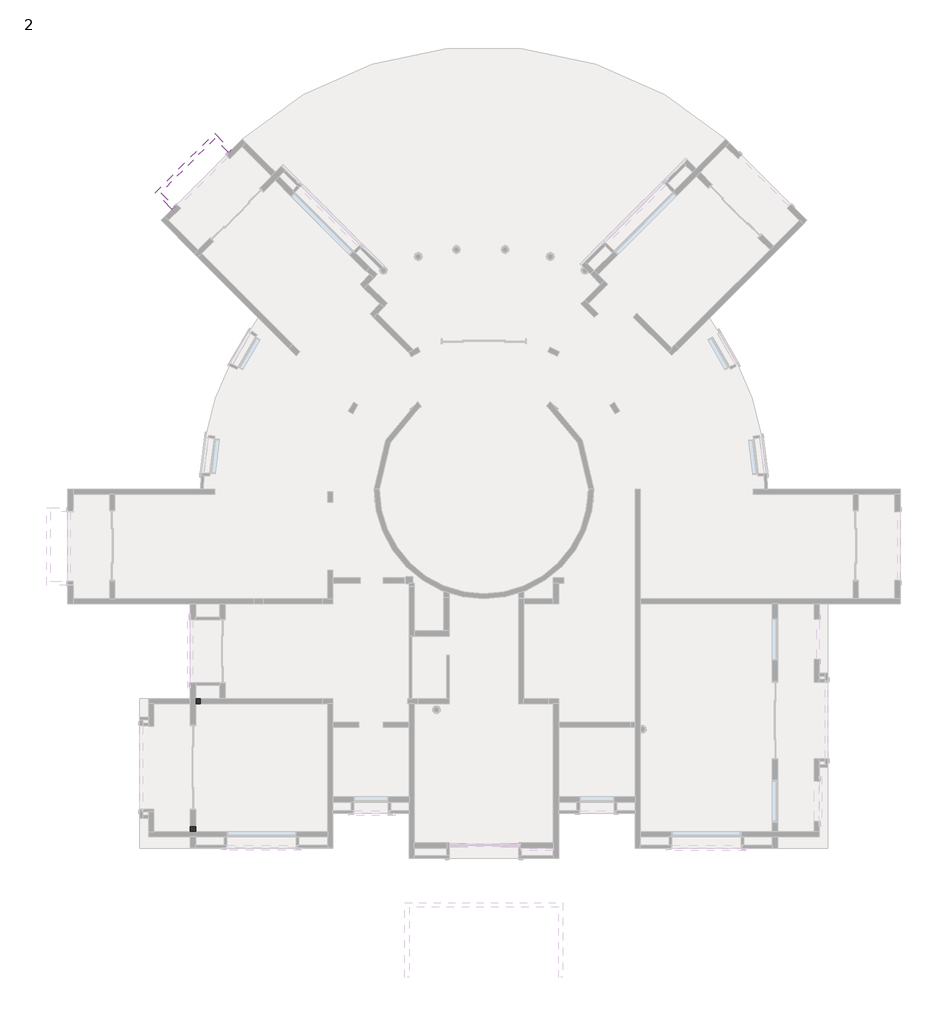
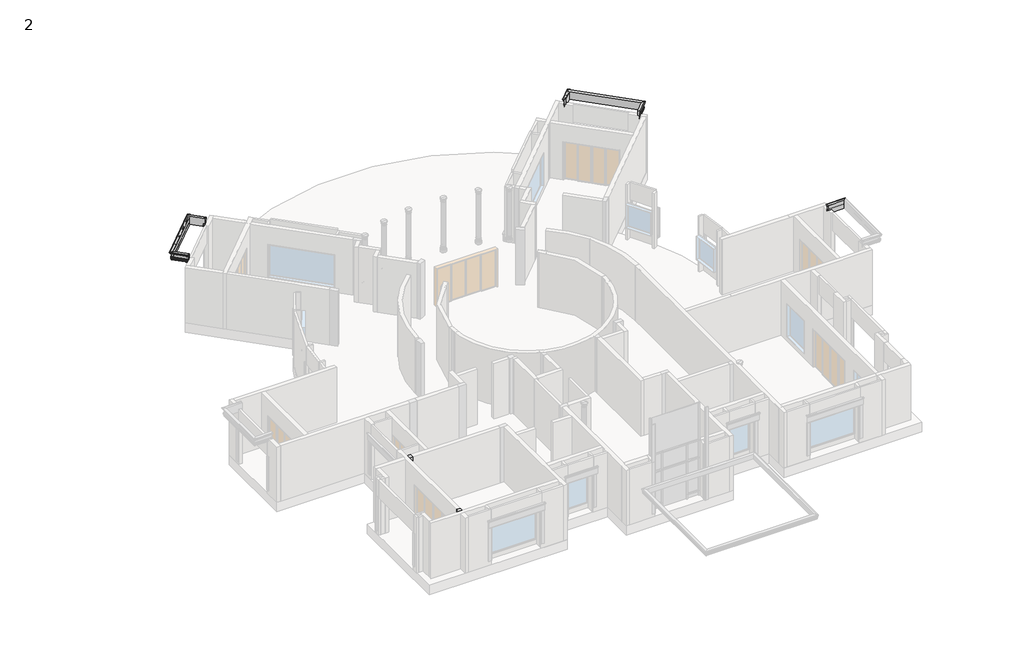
# One storey, part 7 of 10: 2 columns, 1 proxy.
"""IFC4 building model written with IfcOpenShell, lengths in millimetres."""

from ifc_helpers import new_model, si_unit, frame, origin, place, context, project, spatial, polyline, circle_curve, ellipse_curve, transform, mapped, element, save
from ifc_brep_helpers import plane_surface, cylinder_surface, revolved_surface, advanced_brep
from components import m_concrete_rectangular_column_300_x_450mm_4033bf20

model = new_model("IFC4")

# Units and contexts
model_context = context("Model", 3, world=origin())
ifc_project = project(units=[si_unit("LENGTHUNIT", "METRE", prefix="MILLI")], contexts=[model_context])

# Site, building, storey
site = spatial("IfcSite", under=ifc_project)
building = spatial("IfcBuilding", under=site)
storey = spatial("IfcBuildingStorey", under=building, Name="2", Elevation=0.0)

# Proxy
placement = place(None, origin())
element("IfcBuildingElementProxy", 1, Name="balcony", ObjectType="balcony", at=placement, inside=storey, context=model_context, shape_type="AdvancedBrep", body=[
    advanced_brep(
    [(10775.7049094, -38.6193311, 3911.6), (10623.3049094, -191.0193311, 3911.6), (10623.3049094, -191.0193311, 3403.6), (10701.1937569, -113.1304837, 3403.6), (10709.130086, -105.1941546, 3422.2075227), (10721.9211323, -92.4031082, 3462.450942), (10721.9211323, -92.4031082, 3486.15), (10721.9211323, -92.4031082, 3524.25), (10721.9211323, -92.4031082, 3562.35), (10721.9211323, -92.4031082, 3594.1), (10701.1937569, -113.1304837, 3594.1), (10701.1937569, -113.1304837, 3797.3), (10758.3437569, -55.9804837, 3797.3), (10755.2608667, -59.0633738, 3810.2253558), (10763.0049094, -51.3193311, 3860.8), (10763.0049094, -51.3193311, 3873.5), (10775.7049094, -38.6193311, 3873.5), (9632.7049094, -38.6193311, 3911.6), (9632.7049094, -38.6193311, 3873.5), (9632.7049094, -51.3193311, 3873.5), (9632.7049094, -51.3193311, 3860.8), (9632.7049094, -59.0633738, 3810.2253558), (9632.7049094, -55.9804837, 3797.3), (9632.7049094, -113.1304837, 3797.3), (9632.7049094, -113.1304837, 3594.1), (9632.7049094, -92.4031082, 3594.1), (9632.7049094, -92.4031082, 3562.35), (9632.7049094, -92.4031082, 3524.25), (9632.7049094, -92.4031082, 3486.15), (9632.7049094, -92.4031082, 3462.450942), (9632.7049094, -105.1941546, 3422.2075227), (9632.7049094, -113.1304837, 3403.6), (9632.7049094, -191.0193311, 3403.6), (9632.7049094, -191.0193311, 3911.6)],
    [
        (0, 1),
        (1, 2),
        (2, 3),
        (3, 4, ellipse_curve(frame((10704.6432051, -109.6810355, 3413.125), z_axis=(0.7071067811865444, -0.7071067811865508, 0.0), x_axis=(0.7071067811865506, 0.7071067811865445, 0.0)), 14.3265012, 10.1303661)),
        (4, 5, ellipse_curve(frame((10718.5893953, -95.7348453, 3441.3554326), z_axis=(-0.7071067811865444, 0.7071067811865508, 0.0), x_axis=(-0.7071067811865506, -0.7071067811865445, 0.0)), 30.2033438, 21.3569892)),
        (5, 6),
        (6, 7, ellipse_curve(frame((10721.9211323, -92.4031082, 3505.2), z_axis=(0.7071067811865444, -0.7071067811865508, 0.0), x_axis=(0.7071067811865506, 0.7071067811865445, 0.0)), 26.9407684, 19.05)),
        (7, 8),
        (8, 9, ellipse_curve(frame((10725.6856548, -88.6385858, 3578.225), z_axis=(0.7071067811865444, -0.7071067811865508, 0.0), x_axis=(0.7071067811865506, 0.7071067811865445, 0.0)), 23.0732423, 16.3152461)),
        (9, 10),
        (10, 11),
        (11, 12),
        (12, 13, ellipse_curve(frame((10754.1003294, -60.2239111, 3803.1182148), z_axis=(0.7071067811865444, -0.7071067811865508, 0.0), x_axis=(0.7071067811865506, 0.7071067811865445, 0.0)), 10.1841347, 7.2012707)),
        (13, 14, ellipse_curve(frame((10759.3838034, -54.9404372, 3835.4742575), z_axis=(-0.7071067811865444, 0.7071067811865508, 0.0), x_axis=(-0.7071067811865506, -0.7071067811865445, 0.0)), 36.180261, 25.5833079)),
        (14, 15),
        (15, 16),
        (16, 0, ellipse_curve(frame((10775.7049094, -38.6193311, 3892.55), z_axis=(0.7071067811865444, -0.7071067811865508, 0.0), x_axis=(0.7071067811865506, 0.7071067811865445, 0.0)), 26.9407684, 19.05)),
        (17, 18, circle_curve(frame((9632.7049094, -38.6193311, 3892.55), z_axis=(-1.0, 0.0, 0.0), x_axis=(0.0, 1.0, 0.0)), 19.05)),
        (18, 19),
        (19, 20),
        (20, 21, circle_curve(frame((9632.7049094, -54.9404372, 3835.4742575), z_axis=(1.0, 0.0, 0.0), x_axis=(0.0, 1.0, 0.0)), 25.5833079)),
        (21, 22, circle_curve(frame((9632.7049094, -60.2239111, 3803.1182148), z_axis=(-1.0, 0.0, 0.0), x_axis=(0.0, 1.0, 0.0)), 7.2012707)),
        (22, 23),
        (23, 24),
        (24, 25),
        (25, 26, circle_curve(frame((9632.7049094, -88.6385858, 3578.225), z_axis=(-1.0, 0.0, 0.0), x_axis=(0.0, 1.0, 0.0)), 16.3152461)),
        (26, 27),
        (27, 28, circle_curve(frame((9632.7049094, -92.4031082, 3505.2), z_axis=(-1.0, 0.0, 0.0), x_axis=(0.0, 1.0, 0.0)), 19.05)),
        (28, 29),
        (29, 30, circle_curve(frame((9632.7049094, -95.7348453, 3441.3554326), z_axis=(1.0, 0.0, 0.0), x_axis=(0.0, 1.0, 0.0)), 21.3569892)),
        (30, 31, circle_curve(frame((9632.7049094, -109.6810355, 3413.125), z_axis=(-1.0, 0.0, 0.0), x_axis=(0.0, 1.0, 0.0)), 10.1303661)),
        (31, 32),
        (32, 33),
        (33, 17),
        (0, 17),
        (33, 1),
        (32, 2),
        (31, 3),
        (30, 4),
        (29, 5),
        (28, 6),
        (27, 7),
        (26, 8),
        (25, 9),
        (24, 10),
        (23, 11),
        (22, 12),
        (21, 13),
        (20, 14),
        (19, 15),
        (18, 16),
    ],
    [
        plane_surface(frame((10623.3049094, -191.0193311, 3403.6), z_axis=(0.7071067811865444, -0.7071067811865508, 0.0), x_axis=(0.7071067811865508, 0.7071067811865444, 0.0))),
        plane_surface(frame((9632.7049094, -191.0193311, 2873.2324293), z_axis=(-1.0, 0.0, 0.0), x_axis=(0.0, -1.0, 0.0))),
        plane_surface(frame((10775.7049094, -38.6193311, 3911.6), z_axis=(0.0, 0.0, 1.0), x_axis=(-1.0, 0.0, 0.0))),
        plane_surface(frame((10623.3049094, -191.0193311, 3911.6), z_axis=(0.0, -1.0, 0.0), x_axis=(-1.0, 0.0, 0.0))),
        plane_surface(frame((10623.3049094, -191.0193311, 3403.6), z_axis=(0.0, 0.0, -1.0), x_axis=(-1.0, 0.0, 0.0))),
        cylinder_surface(frame((10623.3049094, -109.6810355, 3413.125), z_axis=(1.0, 0.0, 0.0), x_axis=(0.0, 1.0, 0.0)), 10.1303661),
        revolved_surface(polyline([(9632.7049094, -74.3778561, 3441.3554326), (10739.946384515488, -74.3778561, 3441.3554326)]), (10623.3049094, -95.7348453, 3441.3554326), (-1.0, 0.0, 0.0)),
        plane_surface(frame((10721.9211323, -92.4031082, 3462.450942), z_axis=(0.0, 1.0, 0.0), x_axis=(-1.0, 0.0, 0.0))),
        cylinder_surface(frame((10623.3049094, -92.4031082, 3505.2), z_axis=(1.0, 0.0, 0.0), x_axis=(0.0, 1.0, 0.0)), 19.05),
        plane_surface(frame((10721.9211323, -92.4031082, 3524.25), z_axis=(0.0, 1.0, 0.0), x_axis=(-1.0, 0.0, 0.0))),
        cylinder_surface(frame((10623.3049094, -88.6385858, 3578.225), z_axis=(1.0, 0.0, 0.0), x_axis=(0.0, 1.0, 0.0)), 16.3152461),
        plane_surface(frame((10721.9211323, -92.4031082, 3594.1), z_axis=(0.0, 0.0, 1.0), x_axis=(-1.0, 0.0, 0.0))),
        plane_surface(frame((10701.1937569, -113.1304837, 3594.1), z_axis=(0.0, 1.0, 0.0), x_axis=(-1.0, 0.0, 0.0))),
        plane_surface(frame((10701.1937569, -113.1304837, 3797.3), z_axis=(0.0, 0.0, -1.0), x_axis=(-1.0, 0.0, 0.0))),
        cylinder_surface(frame((10623.3049094, -60.2239111, 3803.1182148), z_axis=(1.0, 0.0, 0.0), x_axis=(0.0, 1.0, 0.0)), 7.2012707),
        revolved_surface(polyline([(9632.7049094, -29.357129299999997, 3835.4742575), (10784.9671112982, -29.357129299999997, 3835.4742575)]), (10623.3049094, -54.9404372, 3835.4742575), (-1.0, 0.0, 0.0)),
        plane_surface(frame((10763.0049094, -51.3193311, 3860.8), z_axis=(0.0, 1.0, 0.0), x_axis=(-1.0, 0.0, 0.0))),
        plane_surface(frame((10763.0049094, -51.3193311, 3873.5), z_axis=(0.0, 0.0, -1.0), x_axis=(-1.0, 0.0, 0.0))),
        cylinder_surface(frame((10623.3049094, -38.6193311, 3892.55), z_axis=(1.0, 0.0, 0.0), x_axis=(0.0, 1.0, 0.0)), 19.05),
    ],
    [
        (0, [[1, 2, 3, 4, 5, 6, 7, 8, 9, 10, 11, 12, 13, 14, 15, 16, 17]]),
        (1, [[18, 19, 20, 21, 22, 23, 24, 25, 26, 27, 28, 29, 30, 31, 32, 33, 34]]),
        (2, [[-1, 35, -34, 36]]),
        (3, [[-2, -36, -33, 37]]),
        (4, [[-3, -37, -32, 38]]),
        (5, [[-4, -38, -31, 39]]),
        (6, [[-5, -39, -30, 40]]),
        (7, [[-6, -40, -29, 41]]),
        (8, [[-7, -41, -28, 42]]),
        (9, [[-8, -42, -27, 43]]),
        (10, [[-9, -43, -26, 44]]),
        (11, [[-10, -44, -25, 45]]),
        (12, [[-11, -45, -24, 46]]),
        (13, [[-12, -46, -23, 47]]),
        (14, [[-13, -47, -22, 48]]),
        (15, [[-14, -48, -21, 49]]),
        (16, [[-15, -49, -20, 50]]),
        (17, [[-16, -50, -19, 51]]),
        (18, [[-17, -51, -18, -35]]),
    ],
),
    advanced_brep(
    [(5395.9304757, 12377.670913, 3911.6), (5288.1674023, 12485.4339865, 3911.6), (5288.1674023, 12485.4339865, 3403.6), (5343.2431345, 12430.3582542, 3403.6), (5348.8549666, 12424.7464221, 3422.2075227), (5357.8996022, 12415.7017865, 3462.450942), (5357.8996022, 12415.7017865, 3486.15), (5357.8996022, 12415.7017865, 3524.25), (5357.8996022, 12415.7017865, 3562.35), (5357.8996022, 12415.7017865, 3594.1), (5343.2431345, 12430.3582542, 3594.1), (5343.2431345, 12430.3582542, 3797.3), (5383.654287, 12389.9471017, 3797.3), (5381.4743545, 12392.1270343, 3810.2253558), (5386.9502196, 12386.6511691, 3860.8), (5386.9502196, 12386.6511691, 3873.5), (5395.9304757, 12377.670913, 3873.5), (6042.5089164, 13024.2493537, 3911.6), (5826.9827695, 13024.2493537, 3911.6), (5826.9827695, 13024.2493537, 3403.6), (5937.134234, 13024.2493537, 3403.6), (5948.3578982, 13024.2493537, 3422.2075227), (5966.4471694, 13024.2493537, 3462.450942), (5966.4471694, 13024.2493537, 3486.15), (5966.4471694, 13024.2493537, 3524.25), (5966.4471694, 13024.2493537, 3562.35), (5966.4471694, 13024.2493537, 3594.1), (5937.134234, 13024.2493537, 3594.1), (5937.134234, 13024.2493537, 3797.3), (6017.9565391, 13024.2493537, 3797.3), (6013.596674, 13024.2493537, 3810.2253558), (6024.5484042, 13024.2493537, 3860.8), (6024.5484042, 13024.2493537, 3873.5), (6042.5089164, 13024.2493537, 3873.5), (3025.1428598, 16041.6154104, 3911.6), (3025.1428598, 15826.0892635, 3911.6), (3025.1428598, 15826.0892635, 3403.6), (3025.1428598, 15936.240728, 3403.6), (3025.1428598, 15947.4643922, 3422.2075227), (3025.1428598, 15965.5536634, 3462.450942), (3025.1428598, 15965.5536634, 3486.15), (3025.1428598, 15965.5536634, 3524.25), (3025.1428598, 15965.5536634, 3562.35), (3025.1428598, 15965.5536634, 3594.1), (3025.1428598, 15936.240728, 3594.1), (3025.1428598, 15936.240728, 3797.3), (3025.1428598, 16017.0630331, 3797.3), (3025.1428598, 16012.7031679, 3810.2253558), (3025.1428598, 16023.6548982, 3860.8), (3025.1428598, 16023.6548982, 3873.5), (3025.1428598, 16041.6154104, 3873.5), (2378.564419, 15395.0369697, 3911.6), (2378.564419, 15395.0369697, 3873.5), (2387.5446752, 15386.0567136, 3873.5), (2387.5446752, 15386.0567136, 3860.8), (2393.0205403, 15380.5808485, 3810.2253558), (2390.8406077, 15382.760781, 3797.3), (2431.2517603, 15342.3496285, 3797.3), (2431.2517603, 15342.3496285, 3594.1), (2416.5952926, 15357.0060962, 3594.1), (2416.5952926, 15357.0060962, 3562.35), (2416.5952926, 15357.0060962, 3524.25), (2416.5952926, 15357.0060962, 3486.15), (2416.5952926, 15357.0060962, 3462.450942), (2425.6399282, 15347.9614606, 3422.2075227), (2431.2517603, 15342.3496285, 3403.6), (2486.3274925, 15287.2738962, 3403.6), (2486.3274925, 15287.2738962, 3911.6)],
    [
        (0, 1),
        (1, 2),
        (2, 3),
        (3, 4, circle_curve(frame((5345.6822627, 12427.919126, 3413.125), z_axis=(-0.7071067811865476, -0.7071067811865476, 0.0), x_axis=(0.7071067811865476, -0.7071067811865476, 0.0)), 10.1303661)),
        (4, 5, circle_curve(frame((5355.5437084, 12418.0576804, 3441.3554326), z_axis=(0.7071067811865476, 0.7071067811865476, 0.0), x_axis=(0.7071067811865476, -0.7071067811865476, 0.0)), 21.3569892)),
        (5, 6),
        (6, 7, circle_curve(frame((5357.8996022, 12415.7017865, 3505.2), z_axis=(-0.7071067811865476, -0.7071067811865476, 0.0), x_axis=(0.7071067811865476, -0.7071067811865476, 0.0)), 19.05)),
        (7, 8),
        (8, 9, circle_curve(frame((5360.5615216, 12413.0398671, 3578.225), z_axis=(-0.7071067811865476, -0.7071067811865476, 0.0), x_axis=(0.7071067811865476, -0.7071067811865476, 0.0)), 16.3152461)),
        (9, 10),
        (10, 11),
        (11, 12),
        (12, 13, circle_curve(frame((5380.6537307, 12392.947658, 3803.1182148), z_axis=(-0.7071067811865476, -0.7071067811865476, 0.0), x_axis=(0.7071067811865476, -0.7071067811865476, 0.0)), 7.2012707)),
        (13, 14, circle_curve(frame((5384.3897109, 12389.2116778, 3835.4742575), z_axis=(0.7071067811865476, 0.7071067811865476, 0.0), x_axis=(0.7071067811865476, -0.7071067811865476, 0.0)), 25.5833079)),
        (14, 15),
        (15, 16),
        (16, 0, circle_curve(frame((5395.9304757, 12377.670913, 3892.55), z_axis=(-0.7071067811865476, -0.7071067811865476, 0.0), x_axis=(0.7071067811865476, -0.7071067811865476, 0.0)), 19.05)),
        (0, 17),
        (17, 18),
        (18, 1),
        (18, 19),
        (19, 2),
        (19, 20),
        (20, 3),
        (20, 21, ellipse_curve(frame((5942.0124904, 13024.2493537, 3413.125), z_axis=(0.0, -1.0, 0.0), x_axis=(-1.0, 0.0, 0.0)), 14.3265012, 10.1303661)),
        (21, 4),
        (21, 22, ellipse_curve(frame((5961.7353817, 13024.2493537, 3441.3554326), z_axis=(0.0, 1.0, 0.0), x_axis=(1.0, 0.0, 0.0)), 30.2033438, 21.3569892)),
        (22, 5),
        (22, 23),
        (23, 6),
        (23, 24, ellipse_curve(frame((5966.4471694, 13024.2493537, 3505.2), z_axis=(0.0, -1.0, 0.0), x_axis=(-1.0, 0.0, 0.0)), 26.9407684, 19.05)),
        (24, 7),
        (24, 25),
        (25, 8),
        (25, 26, ellipse_curve(frame((5971.7710082, 13024.2493537, 3578.225), z_axis=(0.0, -1.0, 0.0), x_axis=(-1.0, 0.0, 0.0)), 23.0732423, 16.3152461)),
        (26, 9),
        (26, 27),
        (27, 10),
        (27, 28),
        (28, 11),
        (28, 29),
        (29, 12),
        (29, 30, ellipse_curve(frame((6011.9554264, 13024.2493537, 3803.1182148), z_axis=(0.0, -1.0, 0.0), x_axis=(-1.0, 0.0, 0.0)), 10.1841347, 7.2012707)),
        (30, 13),
        (30, 31, ellipse_curve(frame((6019.4273869, 13024.2493537, 3835.4742575), z_axis=(0.0, 1.0, 0.0), x_axis=(1.0, 0.0, 0.0)), 36.180261, 25.5833079)),
        (31, 14),
        (31, 32),
        (32, 15),
        (32, 33),
        (33, 16),
        (33, 17, ellipse_curve(frame((6042.5089164, 13024.2493537, 3892.55), z_axis=(0.0, -1.0, 0.0), x_axis=(-1.0, 0.0, 0.0)), 26.9407684, 19.05)),
        (17, 34),
        (34, 35),
        (35, 18),
        (35, 36),
        (36, 19),
        (36, 37),
        (37, 20),
        (37, 38, ellipse_curve(frame((3025.1428598, 15941.1189844, 3413.125), z_axis=(1.0, 0.0, 0.0), x_axis=(0.0, -1.0, 0.0)), 14.3265012, 10.1303661)),
        (38, 21),
        (38, 39, ellipse_curve(frame((3025.1428598, 15960.8418757, 3441.3554326), z_axis=(-1.0, 0.0, 0.0), x_axis=(0.0, 1.0, 0.0)), 30.2033438, 21.3569892)),
        (39, 22),
        (39, 40),
        (40, 23),
        (40, 41, ellipse_curve(frame((3025.1428598, 15965.5536634, 3505.2), z_axis=(1.0, 0.0, 0.0), x_axis=(0.0, -1.0, 0.0)), 26.9407684, 19.05)),
        (41, 24),
        (41, 42),
        (42, 25),
        (42, 43, ellipse_curve(frame((3025.1428598, 15970.8775021, 3578.225), z_axis=(1.0, 0.0, 0.0), x_axis=(0.0, -1.0, 0.0)), 23.0732423, 16.3152461)),
        (43, 26),
        (43, 44),
        (44, 27),
        (44, 45),
        (45, 28),
        (45, 46),
        (46, 29),
        (46, 47, ellipse_curve(frame((3025.1428598, 16011.0619204, 3803.1182148), z_axis=(1.0, 0.0, 0.0), x_axis=(0.0, -1.0, 0.0)), 10.1841347, 7.2012707)),
        (47, 30),
        (47, 48, ellipse_curve(frame((3025.1428598, 16018.5338809, 3835.4742575), z_axis=(-1.0, 0.0, 0.0), x_axis=(0.0, 1.0, 0.0)), 36.180261, 25.5833079)),
        (48, 31),
        (48, 49),
        (49, 32),
        (49, 50),
        (50, 33),
        (50, 34, ellipse_curve(frame((3025.1428598, 16041.6154104, 3892.55), z_axis=(1.0, 0.0, 0.0), x_axis=(0.0, -1.0, 0.0)), 26.9407684, 19.05)),
        (51, 52, circle_curve(frame((2378.564419, 15395.0369697, 3892.55), z_axis=(-0.7071067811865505, -0.7071067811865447, 0.0), x_axis=(-0.7071067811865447, 0.7071067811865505, 0.0)), 19.05)),
        (52, 53),
        (53, 54),
        (54, 55, circle_curve(frame((2390.1051838, 15383.4962049, 3835.4742575), z_axis=(0.7071067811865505, 0.7071067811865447, 0.0), x_axis=(-0.7071067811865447, 0.7071067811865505, 0.0)), 25.5833079)),
        (55, 56, circle_curve(frame((2393.8411641, 15379.7602247, 3803.1182148), z_axis=(-0.7071067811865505, -0.7071067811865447, 0.0), x_axis=(-0.7071067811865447, 0.7071067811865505, 0.0)), 7.2012707)),
        (56, 57),
        (57, 58),
        (58, 59),
        (59, 60, circle_curve(frame((2413.9333732, 15359.6680156, 3578.225), z_axis=(-0.7071067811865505, -0.7071067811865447, 0.0), x_axis=(-0.7071067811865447, 0.7071067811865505, 0.0)), 16.3152461)),
        (60, 61),
        (61, 62, circle_curve(frame((2416.5952926, 15357.0060962, 3505.2), z_axis=(-0.7071067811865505, -0.7071067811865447, 0.0), x_axis=(-0.7071067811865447, 0.7071067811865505, 0.0)), 19.05)),
        (62, 63),
        (63, 64, circle_curve(frame((2418.9511864, 15354.6502023, 3441.3554326), z_axis=(0.7071067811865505, 0.7071067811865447, 0.0), x_axis=(-0.7071067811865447, 0.7071067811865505, 0.0)), 21.3569892)),
        (64, 65, circle_curve(frame((2428.8126321, 15344.7887567, 3413.125), z_axis=(-0.7071067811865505, -0.7071067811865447, 0.0), x_axis=(-0.7071067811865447, 0.7071067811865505, 0.0)), 10.1303661)),
        (65, 66),
        (66, 67),
        (67, 51),
        (34, 51),
        (67, 35),
        (66, 36),
        (65, 37),
        (64, 38),
        (63, 39),
        (62, 40),
        (61, 41),
        (60, 42),
        (59, 43),
        (58, 44),
        (57, 45),
        (56, 46),
        (55, 47),
        (54, 48),
        (53, 49),
        (52, 50),
    ],
    [
        plane_surface(frame((5288.1674023, 12485.4339865, 3933.9675707), z_axis=(-0.7071067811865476, -0.7071067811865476, 0.0), x_axis=(0.7071067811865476, -0.7071067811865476, 0.0))),
        plane_surface(frame((5395.9304757, 12377.670913, 3911.6), z_axis=(0.0, 0.0, 1.0000000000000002), x_axis=(0.707106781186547, 0.7071067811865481, 0.0))),
        plane_surface(frame((5288.1674023, 12485.4339865, 3911.6), z_axis=(-0.7071067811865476, 0.7071067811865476, 0.0), x_axis=(0.7071067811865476, 0.7071067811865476, 0.0))),
        plane_surface(frame((5288.1674023, 12485.4339865, 3403.6), z_axis=(0.0, 0.0, -1.0), x_axis=(0.7071067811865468, 0.7071067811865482, 0.0))),
        cylinder_surface(frame((5345.6822627, 12427.919126, 3413.125), z_axis=(-0.7071067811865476, -0.7071067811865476, 0.0), x_axis=(0.7071067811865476, -0.7071067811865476, 0.0)), 10.1303661),
        revolved_surface(polyline([(5991.938725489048, 13024.249353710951, 3441.3554326), (5370.645380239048, 12402.956008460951, 3441.3554326)]), (5355.5437084, 12418.0576804, 3441.3554326), (0.7071067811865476, 0.7071067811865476, 0.0)),
        plane_surface(frame((5357.8996022, 12415.7017865, 3462.450942), z_axis=(0.7071067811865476, -0.7071067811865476, 0.0), x_axis=(0.7071067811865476, 0.7071067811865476, 0.0))),
        cylinder_surface(frame((5357.8996022, 12415.7017865, 3505.2), z_axis=(-0.7071067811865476, -0.7071067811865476, 0.0), x_axis=(0.7071067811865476, -0.7071067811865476, 0.0)), 19.05),
        plane_surface(frame((5357.8996022, 12415.7017865, 3524.25), z_axis=(0.7071067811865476, -0.7071067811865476, 0.0), x_axis=(0.7071067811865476, 0.7071067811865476, 0.0))),
        cylinder_surface(frame((5360.5615216, 12413.0398671, 3578.225), z_axis=(-0.7071067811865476, -0.7071067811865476, 0.0), x_axis=(0.7071067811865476, -0.7071067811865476, 0.0)), 16.3152461),
        plane_surface(frame((5357.8996022, 12415.7017865, 3594.1), z_axis=(0.0, 0.0, 1.0000000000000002), x_axis=(0.7071067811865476, 0.7071067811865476, 0.0))),
        plane_surface(frame((5343.2431345, 12430.3582542, 3594.1), z_axis=(0.7071067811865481, -0.7071067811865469, 0.0), x_axis=(0.7071067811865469, 0.7071067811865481, 0.0))),
        plane_surface(frame((5343.2431345, 12430.3582542, 3797.3), z_axis=(0.0, 0.0, -1.0), x_axis=(0.7071067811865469, 0.7071067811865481, 0.0))),
        cylinder_surface(frame((5380.6537307, 12392.947658, 3803.1182148), z_axis=(-0.7071067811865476, -0.7071067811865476, 0.0), x_axis=(0.7071067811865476, -0.7071067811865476, 0.0)), 7.2012707),
        revolved_surface(polyline([(6055.607647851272, 13024.249353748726, 3835.4742575), (5402.479841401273, 12371.121547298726, 3835.4742575)]), (5384.3897109, 12389.2116778, 3835.4742575), (0.7071067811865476, 0.7071067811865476, 0.0)),
        plane_surface(frame((5386.9502196, 12386.6511691, 3860.8), z_axis=(0.7071067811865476, -0.7071067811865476, 0.0), x_axis=(0.7071067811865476, 0.7071067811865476, 0.0))),
        plane_surface(frame((5386.9502196, 12386.6511691, 3873.5), z_axis=(0.0, 0.0, -1.0000000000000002), x_axis=(0.7071067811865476, 0.7071067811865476, 0.0))),
        cylinder_surface(frame((5395.9304757, 12377.670913, 3892.55), z_axis=(-0.7071067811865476, -0.7071067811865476, 0.0), x_axis=(0.7071067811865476, -0.7071067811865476, 0.0)), 19.05),
        plane_surface(frame((6042.5089164, 13024.2493537, 3911.6), z_axis=(0.0, 0.0, 1.0000000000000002), x_axis=(-0.7071067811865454, 0.7071067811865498, 0.0))),
        plane_surface(frame((5826.9827695, 13024.2493537, 3911.6), z_axis=(-0.7071067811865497, -0.7071067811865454, 0.0), x_axis=(-0.7071067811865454, 0.7071067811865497, 0.0))),
        plane_surface(frame((5826.9827695, 13024.2493537, 3403.6), z_axis=(0.0, 0.0, -1.0), x_axis=(-0.7071067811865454, 0.7071067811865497, 0.0))),
        cylinder_surface(frame((5884.49763, 13081.7642142, 3413.125), z_axis=(0.7071067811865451, -0.7071067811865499, 0.0), x_axis=(0.7071067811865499, 0.7071067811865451, 0.0)), 10.1303661),
        revolved_surface(polyline([(3025.1428597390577, 15991.045219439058, 3441.3554326), (5991.938725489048, 13024.249353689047, 3441.3554326)]), (5894.3590756, 13091.6256598, 3441.3554326), (-0.7071067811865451, 0.7071067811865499, 0.0)),
        plane_surface(frame((5966.4471694, 13024.2493537, 3462.450942), z_axis=(0.7071067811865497, 0.7071067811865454, 0.0), x_axis=(-0.7071067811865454, 0.7071067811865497, 0.0))),
        cylinder_surface(frame((5896.7149695, 13093.9815537, 3505.2), z_axis=(0.7071067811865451, -0.7071067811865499, 0.0), x_axis=(0.7071067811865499, 0.7071067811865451, 0.0)), 19.05),
        plane_surface(frame((5966.4471694, 13024.2493537, 3524.25), z_axis=(0.7071067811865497, 0.7071067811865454, 0.0), x_axis=(-0.7071067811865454, 0.7071067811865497, 0.0))),
        cylinder_surface(frame((5899.3768889, 13096.643473, 3578.225), z_axis=(0.7071067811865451, -0.7071067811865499, 0.0), x_axis=(0.7071067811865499, 0.7071067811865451, 0.0)), 16.3152461),
        plane_surface(frame((5966.4471694, 13024.2493537, 3594.1), z_axis=(0.0, 0.0, 1.0), x_axis=(-0.7071067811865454, 0.7071067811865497, 0.0))),
        plane_surface(frame((5937.134234, 13024.2493537, 3594.1), z_axis=(0.7071067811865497, 0.7071067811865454, 0.0), x_axis=(-0.7071067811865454, 0.7071067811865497, 0.0))),
        plane_surface(frame((5937.134234, 13024.2493537, 3797.3), z_axis=(0.0, 0.0, -1.0), x_axis=(-0.7071067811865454, 0.7071067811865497, 0.0))),
        cylinder_surface(frame((5919.469098, 13116.7356822, 3803.1182148), z_axis=(0.7071067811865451, -0.7071067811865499, 0.0), x_axis=(0.7071067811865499, 0.7071067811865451, 0.0)), 7.2012707),
        revolved_surface(polyline([(3025.142859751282, 16054.714141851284, 3835.4742575), (6055.607647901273, 13024.249353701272, 3835.4742575)]), (5923.2050782, 13120.4716624, 3835.4742575), (-0.7071067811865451, 0.7071067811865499, 0.0)),
        plane_surface(frame((6024.5484042, 13024.2493537, 3860.8), z_axis=(0.7071067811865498, 0.7071067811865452, 0.0), x_axis=(-0.7071067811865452, 0.7071067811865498, 0.0))),
        plane_surface(frame((6024.5484042, 13024.2493537, 3873.5), z_axis=(0.0, 0.0, -1.0), x_axis=(-0.7071067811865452, 0.7071067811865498, 0.0))),
        cylinder_surface(frame((5934.745843, 13132.0124272, 3892.55), z_axis=(0.7071067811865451, -0.7071067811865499, 0.0), x_axis=(0.7071067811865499, 0.7071067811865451, 0.0)), 19.05),
        plane_surface(frame((2486.3274925, 15287.2738962, 2873.2324293), z_axis=(-0.707106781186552, -0.7071067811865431, 0.0), x_axis=(0.7071067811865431, -0.707106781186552, 0.0))),
        plane_surface(frame((3025.1428598, 16041.6154104, 3911.6), z_axis=(0.0, 0.0, 1.0000000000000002), x_axis=(-0.7071067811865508, -0.7071067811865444, 0.0))),
        plane_surface(frame((3025.1428598, 15826.0892635, 3911.6), z_axis=(0.7071067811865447, -0.7071067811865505, 0.0), x_axis=(-0.7071067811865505, -0.7071067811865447, 0.0))),
        plane_surface(frame((3025.1428598, 15826.0892635, 3403.6), z_axis=(0.0, 0.0, -1.0), x_axis=(-0.7071067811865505, -0.7071067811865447, 0.0))),
        cylinder_surface(frame((2967.6279993, 15883.6041239, 3413.125), z_axis=(0.7071067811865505, 0.7071067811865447, 0.0), x_axis=(-0.7071067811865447, 0.7071067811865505, 0.0)), 10.1303661),
        revolved_surface(polyline([(2403.849514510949, 15369.75187418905, 3441.3554326), (3025.142859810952, 15991.045219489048, 3441.3554326)]), (2957.7665537, 15893.4655696, 3441.3554326), (-0.7071067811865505, -0.7071067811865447, 0.0)),
        plane_surface(frame((3025.1428598, 15965.5536634, 3462.450942), z_axis=(-0.7071067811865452, 0.7071067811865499, 0.0), x_axis=(-0.7071067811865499, -0.7071067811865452, 0.0))),
        cylinder_surface(frame((2955.4106598, 15895.8214634, 3505.2), z_axis=(0.7071067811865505, 0.7071067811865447, 0.0), x_axis=(-0.7071067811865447, 0.7071067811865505, 0.0)), 19.05),
        plane_surface(frame((3025.1428598, 15965.5536634, 3524.25), z_axis=(-0.707106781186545, 0.70710678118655, 0.0), x_axis=(-0.70710678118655, -0.707106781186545, 0.0))),
        cylinder_surface(frame((2952.7487404, 15898.4833828, 3578.225), z_axis=(0.7071067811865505, 0.7071067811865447, 0.0), x_axis=(-0.7071067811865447, 0.7071067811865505, 0.0)), 16.3152461),
        plane_surface(frame((3025.1428598, 15965.5536634, 3594.1), z_axis=(0.0, 0.0, 1.0), x_axis=(-0.7071067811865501, -0.707106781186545, 0.0))),
        plane_surface(frame((3025.1428598, 15936.240728, 3594.1), z_axis=(-0.7071067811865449, 0.7071067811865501, 0.0), x_axis=(-0.7071067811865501, -0.7071067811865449, 0.0))),
        plane_surface(frame((3025.1428598, 15936.240728, 3797.3), z_axis=(0.0, 0.0, -1.0), x_axis=(-0.7071067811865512, -0.7071067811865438, 0.0))),
        cylinder_surface(frame((2932.6565313, 15918.5755919, 3803.1182148), z_axis=(0.7071067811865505, 0.7071067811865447, 0.0), x_axis=(-0.7071067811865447, 0.7071067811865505, 0.0)), 7.2012707),
        revolved_surface(polyline([(2372.0150532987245, 15401.586335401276, 3835.4742575), (3025.142859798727, 16054.714141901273, 3835.4742575)]), (2928.9205511, 15922.3115722, 3835.4742575), (-0.7071067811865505, -0.7071067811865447, 0.0)),
        plane_surface(frame((3025.1428598, 16023.6548982, 3860.8), z_axis=(-0.7071067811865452, 0.7071067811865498, 0.0), x_axis=(-0.7071067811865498, -0.7071067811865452, 0.0))),
        plane_surface(frame((3025.1428598, 16023.6548982, 3873.5), z_axis=(0.0, 0.0, -1.0), x_axis=(-0.7071067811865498, -0.7071067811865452, 0.0))),
        cylinder_surface(frame((2917.3797863, 15933.852337, 3892.55), z_axis=(0.7071067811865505, 0.7071067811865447, 0.0), x_axis=(-0.7071067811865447, 0.7071067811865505, 0.0)), 19.05),
    ],
    [
        (0, [[1, 2, 3, 4, 5, 6, 7, 8, 9, 10, 11, 12, 13, 14, 15, 16, 17]]),
        (1, [[-1, 18, 19, 20]]),
        (2, [[-2, -20, 21, 22]]),
        (3, [[-3, -22, 23, 24]]),
        (4, [[-4, -24, 25, 26]]),
        (5, [[-5, -26, 27, 28]]),
        (6, [[-6, -28, 29, 30]]),
        (7, [[-7, -30, 31, 32]]),
        (8, [[-8, -32, 33, 34]]),
        (9, [[-9, -34, 35, 36]]),
        (10, [[-10, -36, 37, 38]]),
        (11, [[-11, -38, 39, 40]]),
        (12, [[-12, -40, 41, 42]]),
        (13, [[-13, -42, 43, 44]]),
        (14, [[-14, -44, 45, 46]]),
        (15, [[-15, -46, 47, 48]]),
        (16, [[-16, -48, 49, 50]]),
        (17, [[-17, -50, 51, -18]]),
        (18, [[-19, 52, 53, 54]]),
        (19, [[-21, -54, 55, 56]]),
        (20, [[-23, -56, 57, 58]]),
        (21, [[-25, -58, 59, 60]]),
        (22, [[-27, -60, 61, 62]]),
        (23, [[-29, -62, 63, 64]]),
        (24, [[-31, -64, 65, 66]]),
        (25, [[-33, -66, 67, 68]]),
        (26, [[-35, -68, 69, 70]]),
        (27, [[-37, -70, 71, 72]]),
        (28, [[-39, -72, 73, 74]]),
        (29, [[-41, -74, 75, 76]]),
        (30, [[-43, -76, 77, 78]]),
        (31, [[-45, -78, 79, 80]]),
        (32, [[-47, -80, 81, 82]]),
        (33, [[-49, -82, 83, 84]]),
        (34, [[-51, -84, 85, -52]]),
        (35, [[86, 87, 88, 89, 90, 91, 92, 93, 94, 95, 96, 97, 98, 99, 100, 101, 102]]),
        (36, [[-53, 103, -102, 104]]),
        (37, [[-55, -104, -101, 105]]),
        (38, [[-57, -105, -100, 106]]),
        (39, [[-59, -106, -99, 107]]),
        (40, [[-61, -107, -98, 108]]),
        (41, [[-63, -108, -97, 109]]),
        (42, [[-65, -109, -96, 110]]),
        (43, [[-67, -110, -95, 111]]),
        (44, [[-69, -111, -94, 112]]),
        (45, [[-71, -112, -93, 113]]),
        (46, [[-73, -113, -92, 114]]),
        (47, [[-75, -114, -91, 115]]),
        (48, [[-77, -115, -90, 116]]),
        (49, [[-79, -116, -89, 117]]),
        (50, [[-81, -117, -88, 118]]),
        (51, [[-83, -118, -87, 119]]),
        (52, [[-85, -119, -86, -103]]),
    ],
),
    advanced_brep(
    [(-19479.6922695, 15395.6854187, 3911.6), (-19587.455343, 15287.9223452, 3911.6), (-19587.455343, 15287.9223452, 3403.6), (-19532.3796107, 15342.9980774, 3403.6), (-19526.7677786, 15348.6099095, 3422.2075227), (-19517.723143, 15357.6545451, 3462.450942), (-19517.723143, 15357.6545451, 3486.15), (-19517.723143, 15357.6545451, 3524.25), (-19517.723143, 15357.6545451, 3562.35), (-19517.723143, 15357.6545451, 3594.1), (-19532.3796107, 15342.9980774, 3594.1), (-19532.3796107, 15342.9980774, 3797.3), (-19491.9684582, 15383.40923, 3797.3), (-19494.1483907, 15381.2292974, 3810.2253558), (-19488.6725256, 15386.7051625, 3860.8), (-19488.6725256, 15386.7051625, 3873.5), (-19479.6922695, 15395.6854187, 3873.5), (-20202.6028872, 16118.5960364, 3911.6), (-20202.6028872, 15903.0698895, 3911.6), (-20202.6028872, 15903.0698895, 3403.6), (-20202.6028872, 16013.221354, 3403.6), (-20202.6028872, 16024.4450182, 3422.2075227), (-20202.6028872, 16042.5342894, 3462.450942), (-20202.6028872, 16042.5342894, 3486.15), (-20202.6028872, 16042.5342894, 3524.25), (-20202.6028872, 16042.5342894, 3562.35), (-20202.6028872, 16042.5342894, 3594.1), (-20202.6028872, 16013.221354, 3594.1), (-20202.6028872, 16013.221354, 3797.3), (-20202.6028872, 16094.043659, 3797.3), (-20202.6028872, 16089.6837939, 3810.2253558), (-20202.6028872, 16100.6355242, 3860.8), (-20202.6028872, 16100.6355242, 3873.5), (-20202.6028872, 16118.5960364, 3873.5), (-22779.936394, 13541.2625297, 3911.6), (-22564.4102471, 13541.2625297, 3911.6), (-22564.4102471, 13541.2625297, 3403.6), (-22674.5617116, 13541.2625297, 3403.6), (-22685.7853758, 13541.2625297, 3422.2075227), (-22703.874647, 13541.2625297, 3462.450942), (-22703.874647, 13541.2625297, 3486.15), (-22703.874647, 13541.2625297, 3524.25), (-22703.874647, 13541.2625297, 3562.35), (-22703.874647, 13541.2625297, 3594.1), (-22674.5617116, 13541.2625297, 3594.1), (-22674.5617116, 13541.2625297, 3797.3), (-22755.3840166, 13541.2625297, 3797.3), (-22751.0241515, 13541.2625297, 3810.2253558), (-22761.9758818, 13541.2625297, 3860.8), (-22761.9758818, 13541.2625297, 3873.5), (-22779.936394, 13541.2625297, 3873.5), (-22057.0257762, 12818.3519119, 3911.6), (-22057.0257762, 12818.3519119, 3873.5), (-22048.0455201, 12827.332168, 3873.5), (-22048.0455201, 12827.332168, 3860.8), (-22042.569655, 12832.8080331, 3810.2253558), (-22044.7495876, 12830.6281006, 3797.3), (-22004.338435, 12871.0392531, 3797.3), (-22004.338435, 12871.0392531, 3594.1), (-22018.9949027, 12856.3827854, 3594.1), (-22018.9949027, 12856.3827854, 3562.35), (-22018.9949027, 12856.3827854, 3524.25), (-22018.9949027, 12856.3827854, 3486.15), (-22018.9949027, 12856.3827854, 3462.450942), (-22009.9502671, 12865.427421, 3422.2075227), (-22004.338435, 12871.0392531, 3403.6), (-21949.2627028, 12926.1149854, 3403.6), (-21949.2627028, 12926.1149854, 3911.6)],
    [
        (0, 1),
        (1, 2),
        (2, 3),
        (3, 4, circle_curve(frame((-19529.9404825, 15345.4372056, 3413.125), z_axis=(0.7071067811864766, -0.7071067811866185, 0.0), x_axis=(0.7071067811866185, 0.7071067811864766, 0.0)), 10.1303661)),
        (4, 5, circle_curve(frame((-19520.0790369, 15355.2986513, 3441.3554326), z_axis=(-0.7071067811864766, 0.7071067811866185, 0.0), x_axis=(0.7071067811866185, 0.7071067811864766, 0.0)), 21.3569892)),
        (5, 6),
        (6, 7, circle_curve(frame((-19517.723143, 15357.6545451, 3505.2), z_axis=(0.7071067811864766, -0.7071067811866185, 0.0), x_axis=(0.7071067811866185, 0.7071067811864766, 0.0)), 19.05)),
        (7, 8),
        (8, 9, circle_curve(frame((-19515.0612236, 15360.3164645, 3578.225), z_axis=(0.7071067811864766, -0.7071067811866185, 0.0), x_axis=(0.7071067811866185, 0.7071067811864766, 0.0)), 16.3152461)),
        (9, 10),
        (10, 11),
        (11, 12),
        (12, 13, circle_curve(frame((-19494.9690145, 15380.4086736, 3803.1182148), z_axis=(0.7071067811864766, -0.7071067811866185, 0.0), x_axis=(0.7071067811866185, 0.7071067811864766, 0.0)), 7.2012707)),
        (13, 14, circle_curve(frame((-19491.2330343, 15384.1446539, 3835.4742575), z_axis=(-0.7071067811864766, 0.7071067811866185, 0.0), x_axis=(0.7071067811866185, 0.7071067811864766, 0.0)), 25.5833079)),
        (14, 15),
        (15, 16),
        (16, 0, circle_curve(frame((-19479.6922695, 15395.6854187, 3892.55), z_axis=(0.7071067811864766, -0.7071067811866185, 0.0), x_axis=(0.7071067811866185, 0.7071067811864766, 0.0)), 19.05)),
        (0, 17),
        (17, 18),
        (18, 1),
        (18, 19),
        (19, 2),
        (19, 20),
        (20, 3),
        (20, 21, ellipse_curve(frame((-20202.6028872, 16018.0996104, 3413.125), z_axis=(1.0, 0.0, 0.0), x_axis=(0.0, -1.0, 0.0)), 14.3265012, 10.1303661)),
        (21, 4),
        (21, 22, ellipse_curve(frame((-20202.6028872, 16037.8225017, 3441.3554326), z_axis=(-1.0, 0.0, 0.0), x_axis=(0.0, 1.0, 0.0)), 30.2033438, 21.3569892)),
        (22, 5),
        (22, 23),
        (23, 6),
        (23, 24, ellipse_curve(frame((-20202.6028872, 16042.5342894, 3505.2), z_axis=(1.0, 0.0, 0.0), x_axis=(0.0, -1.0, 0.0)), 26.9407684, 19.05)),
        (24, 7),
        (24, 25),
        (25, 8),
        (25, 26, ellipse_curve(frame((-20202.6028872, 16047.8581281, 3578.225), z_axis=(1.0, 0.0, 0.0), x_axis=(0.0, -1.0, 0.0)), 23.0732423, 16.3152461)),
        (26, 9),
        (26, 27),
        (27, 10),
        (27, 28),
        (28, 11),
        (28, 29),
        (29, 12),
        (29, 30, ellipse_curve(frame((-20202.6028872, 16088.0425463, 3803.1182148), z_axis=(1.0, 0.0, 0.0), x_axis=(0.0, -1.0, 0.0)), 10.1841347, 7.2012707)),
        (30, 13),
        (30, 31, ellipse_curve(frame((-20202.6028872, 16095.5145068, 3835.4742575), z_axis=(-1.0, 0.0, 0.0), x_axis=(0.0, 1.0, 0.0)), 36.180261, 25.5833079)),
        (31, 14),
        (31, 32),
        (32, 15),
        (32, 33),
        (33, 16),
        (33, 17, ellipse_curve(frame((-20202.6028872, 16118.5960364, 3892.55), z_axis=(1.0, 0.0, 0.0), x_axis=(0.0, -1.0, 0.0)), 26.9407684, 19.05)),
        (17, 34),
        (34, 35),
        (35, 18),
        (35, 36),
        (36, 19),
        (36, 37),
        (37, 20),
        (37, 38, ellipse_curve(frame((-22679.439968, 13541.2625297, 3413.125), z_axis=(0.0, 1.0, 0.0), x_axis=(1.0, 0.0, 0.0)), 14.3265012, 10.1303661)),
        (38, 21),
        (38, 39, ellipse_curve(frame((-22699.1628593, 13541.2625297, 3441.3554326), z_axis=(0.0, -1.0, 0.0), x_axis=(-1.0, 0.0, 0.0)), 30.2033438, 21.3569892)),
        (39, 22),
        (39, 40),
        (40, 23),
        (40, 41, ellipse_curve(frame((-22703.874647, 13541.2625297, 3505.2), z_axis=(0.0, 1.0, 0.0), x_axis=(1.0, 0.0, 0.0)), 26.9407684, 19.05)),
        (41, 24),
        (41, 42),
        (42, 25),
        (42, 43, ellipse_curve(frame((-22709.1984857, 13541.2625297, 3578.225), z_axis=(0.0, 1.0, 0.0), x_axis=(1.0, 0.0, 0.0)), 23.0732423, 16.3152461)),
        (43, 26),
        (43, 44),
        (44, 27),
        (44, 45),
        (45, 28),
        (45, 46),
        (46, 29),
        (46, 47, ellipse_curve(frame((-22749.3829039, 13541.2625297, 3803.1182148), z_axis=(0.0, 1.0, 0.0), x_axis=(1.0, 0.0, 0.0)), 10.1841347, 7.2012707)),
        (47, 30),
        (47, 48, ellipse_curve(frame((-22756.8548644, 13541.2625297, 3835.4742575), z_axis=(0.0, -1.0, 0.0), x_axis=(-1.0, 0.0, 0.0)), 36.180261, 25.5833079)),
        (48, 31),
        (48, 49),
        (49, 32),
        (49, 50),
        (50, 33),
        (50, 34, ellipse_curve(frame((-22779.936394, 13541.2625297, 3892.55), z_axis=(0.0, 1.0, 0.0), x_axis=(1.0, 0.0, 0.0)), 26.9407684, 19.05)),
        (51, 52, circle_curve(frame((-22057.0257762, 12818.3519119, 3892.55), z_axis=(0.7071067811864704, -0.7071067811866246, 0.0), x_axis=(-0.7071067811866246, -0.7071067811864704, 0.0)), 19.05)),
        (52, 53),
        (53, 54),
        (54, 55, circle_curve(frame((-22045.4850115, 12829.8926767, 3835.4742575), z_axis=(-0.7071067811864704, 0.7071067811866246, 0.0), x_axis=(-0.7071067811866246, -0.7071067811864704, 0.0)), 25.5833079)),
        (55, 56, circle_curve(frame((-22041.7490312, 12833.6286569, 3803.1182148), z_axis=(0.7071067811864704, -0.7071067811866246, 0.0), x_axis=(-0.7071067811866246, -0.7071067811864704, 0.0)), 7.2012707)),
        (56, 57),
        (57, 58),
        (58, 59),
        (59, 60, circle_curve(frame((-22021.6568221, 12853.720866, 3578.225), z_axis=(0.7071067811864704, -0.7071067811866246, 0.0), x_axis=(-0.7071067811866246, -0.7071067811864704, 0.0)), 16.3152461)),
        (60, 61),
        (61, 62, circle_curve(frame((-22018.9949027, 12856.3827854, 3505.2), z_axis=(0.7071067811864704, -0.7071067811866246, 0.0), x_axis=(-0.7071067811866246, -0.7071067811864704, 0.0)), 19.05)),
        (62, 63),
        (63, 64, circle_curve(frame((-22016.6390089, 12858.7386793, 3441.3554326), z_axis=(-0.7071067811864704, 0.7071067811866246, 0.0), x_axis=(-0.7071067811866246, -0.7071067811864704, 0.0)), 21.3569892)),
        (64, 65, circle_curve(frame((-22006.7775632, 12868.6001249, 3413.125), z_axis=(0.7071067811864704, -0.7071067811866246, 0.0), x_axis=(-0.7071067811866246, -0.7071067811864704, 0.0)), 10.1303661)),
        (65, 66),
        (66, 67),
        (67, 51),
        (34, 51),
        (67, 35),
        (66, 36),
        (65, 37),
        (64, 38),
        (63, 39),
        (62, 40),
        (61, 41),
        (60, 42),
        (59, 43),
        (58, 44),
        (57, 45),
        (56, 46),
        (55, 47),
        (54, 48),
        (53, 49),
        (52, 50),
    ],
    [
        plane_surface(frame((-19587.455343, 15287.9223452, 3933.9675707), z_axis=(0.7071067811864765, -0.7071067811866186, 0.0), x_axis=(0.7071067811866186, 0.7071067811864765, 0.0))),
        plane_surface(frame((-19479.6922695, 15395.6854187, 3911.6), z_axis=(0.0, 0.0, 1.0), x_axis=(-0.7071067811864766, 0.7071067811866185, 0.0))),
        plane_surface(frame((-19587.455343, 15287.9223452, 3911.6), z_axis=(-0.7071067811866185, -0.7071067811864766, 0.0), x_axis=(-0.7071067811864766, 0.7071067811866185, 0.0))),
        plane_surface(frame((-19587.455343, 15287.9223452, 3403.6), z_axis=(0.0, 0.0, -1.0), x_axis=(-0.7071067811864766, 0.7071067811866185, 0.0))),
        cylinder_surface(frame((-19529.9404825, 15345.4372056, 3413.125), z_axis=(0.7071067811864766, -0.7071067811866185, 0.0), x_axis=(0.7071067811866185, 0.7071067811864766, 0.0)), 10.1303661),
        revolved_surface(polyline([(-20202.60288726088, 16068.025845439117, 3441.3554326), (-19504.97736496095, 15370.400323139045, 3441.3554326)]), (-19520.0790369, 15355.2986513, 3441.3554326), (-0.7071067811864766, 0.7071067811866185, 0.0)),
        plane_surface(frame((-19517.723143, 15357.6545451, 3462.450942), z_axis=(0.707106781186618, 0.7071067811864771, 0.0), x_axis=(-0.7071067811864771, 0.707106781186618, 0.0))),
        cylinder_surface(frame((-19517.723143, 15357.6545451, 3505.2), z_axis=(0.7071067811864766, -0.7071067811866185, 0.0), x_axis=(0.7071067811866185, 0.7071067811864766, 0.0)), 19.05),
        plane_surface(frame((-19517.723143, 15357.6545451, 3524.25), z_axis=(0.707106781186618, 0.7071067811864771, 0.0), x_axis=(-0.7071067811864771, 0.707106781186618, 0.0))),
        cylinder_surface(frame((-19515.0612236, 15360.3164645, 3578.225), z_axis=(0.7071067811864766, -0.7071067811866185, 0.0), x_axis=(0.7071067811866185, 0.7071067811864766, 0.0)), 16.3152461),
        plane_surface(frame((-19517.723143, 15357.6545451, 3594.1), z_axis=(0.0, 0.0, 1.0), x_axis=(-0.7071067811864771, 0.707106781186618, 0.0))),
        plane_surface(frame((-19532.3796107, 15342.9980774, 3594.1), z_axis=(0.7071067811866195, 0.7071067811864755, 0.0), x_axis=(-0.7071067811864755, 0.7071067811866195, 0.0))),
        plane_surface(frame((-19532.3796107, 15342.9980774, 3797.3), z_axis=(0.0, 0.0, -1.0), x_axis=(-0.7071067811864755, 0.7071067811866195, 0.0))),
        cylinder_surface(frame((-19494.9690145, 15380.4086736, 3803.1182148), z_axis=(0.7071067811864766, -0.7071067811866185, 0.0), x_axis=(0.7071067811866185, 0.7071067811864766, 0.0)), 7.2012707),
        revolved_surface(polyline([(-20202.602887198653, 16131.694767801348, 3835.4742575), (-19473.142903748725, 15402.234784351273, 3835.4742575)]), (-19491.2330343, 15384.1446539, 3835.4742575), (-0.7071067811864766, 0.7071067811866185, 0.0)),
        plane_surface(frame((-19488.6725256, 15386.7051625, 3860.8), z_axis=(0.7071067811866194, 0.7071067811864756, 0.0), x_axis=(-0.7071067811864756, 0.7071067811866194, 0.0))),
        plane_surface(frame((-19488.6725256, 15386.7051625, 3873.5), z_axis=(0.0, 0.0, -1.0), x_axis=(-0.7071067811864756, 0.7071067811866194, 0.0))),
        cylinder_surface(frame((-19479.6922695, 15395.6854187, 3892.55), z_axis=(0.7071067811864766, -0.7071067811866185, 0.0), x_axis=(0.7071067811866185, 0.7071067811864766, 0.0)), 19.05),
        plane_surface(frame((-20202.6028872, 16118.5960364, 3911.6), z_axis=(0.0, 0.0, 1.0), x_axis=(-0.7071067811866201, -0.7071067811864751, 0.0))),
        plane_surface(frame((-20202.6028872, 15903.0698895, 3911.6), z_axis=(0.707106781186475, -0.7071067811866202, 0.0), x_axis=(-0.7071067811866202, -0.707106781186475, 0.0))),
        plane_surface(frame((-20202.6028872, 15903.0698895, 3403.6), z_axis=(0.0, 0.0, -1.0000000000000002), x_axis=(-0.7071067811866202, -0.707106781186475, 0.0))),
        cylinder_surface(frame((-20260.1177477, 15960.5847499, 3413.125), z_axis=(0.7071067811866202, 0.7071067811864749, 0.0), x_axis=(-0.7071067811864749, 0.7071067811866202, 0.0)), 10.1303661),
        revolved_surface(polyline([(-22729.3662030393, 13541.2625296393, 3441.3554326), (-20202.602887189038, 16068.02584548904, 3441.3554326)]), (-20269.9791933, 15970.4461956, 3441.3554326), (-0.7071067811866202, -0.7071067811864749, 0.0)),
        plane_surface(frame((-20202.6028872, 16042.5342894, 3462.450942), z_axis=(-0.7071067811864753, 0.7071067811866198, 0.0), x_axis=(-0.7071067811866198, -0.7071067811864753, 0.0))),
        cylinder_surface(frame((-20272.3350872, 15972.8020894, 3505.2), z_axis=(0.7071067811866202, 0.7071067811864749, 0.0), x_axis=(-0.7071067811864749, 0.7071067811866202, 0.0)), 19.05),
        plane_surface(frame((-20202.6028872, 16042.5342894, 3524.25), z_axis=(-0.7071067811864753, 0.7071067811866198, 0.0), x_axis=(-0.7071067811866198, -0.7071067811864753, 0.0))),
        cylinder_surface(frame((-20274.9970066, 15975.4640088, 3578.225), z_axis=(0.7071067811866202, 0.7071067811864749, 0.0), x_axis=(-0.7071067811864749, 0.7071067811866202, 0.0)), 16.3152461),
        plane_surface(frame((-20202.6028872, 16042.5342894, 3594.1), z_axis=(0.0, 0.0, 1.0), x_axis=(-0.7071067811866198, -0.7071067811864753, 0.0))),
        plane_surface(frame((-20202.6028872, 16013.221354, 3594.1), z_axis=(-0.7071067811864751, 0.7071067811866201, 0.0), x_axis=(-0.7071067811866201, -0.7071067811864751, 0.0))),
        plane_surface(frame((-20202.6028872, 16013.221354, 3797.3), z_axis=(0.0, 0.0, -1.0), x_axis=(-0.7071067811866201, -0.7071067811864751, 0.0))),
        cylinder_surface(frame((-20295.0892157, 15995.5562179, 3803.1182148), z_axis=(0.7071067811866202, 0.7071067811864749, 0.0), x_axis=(-0.7071067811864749, 0.7071067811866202, 0.0)), 7.2012707),
        revolved_surface(polyline([(-22793.035125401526, 13541.26252970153, 3835.4742575), (-20202.60288725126, 16131.694767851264, 3835.4742575)]), (-20298.8251959, 15999.2921982, 3835.4742575), (-0.7071067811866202, -0.7071067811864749, 0.0)),
        plane_surface(frame((-20202.6028872, 16100.6355242, 3860.8), z_axis=(-0.7071067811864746, 0.7071067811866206, 0.0), x_axis=(-0.7071067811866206, -0.7071067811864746, 0.0))),
        plane_surface(frame((-20202.6028872, 16100.6355242, 3873.5), z_axis=(0.0, 0.0, -1.0000000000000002), x_axis=(-0.7071067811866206, -0.7071067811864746, 0.0))),
        cylinder_surface(frame((-20310.3659607, 16010.8329629, 3892.55), z_axis=(0.7071067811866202, 0.7071067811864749, 0.0), x_axis=(-0.7071067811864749, 0.7071067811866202, 0.0)), 19.05),
        plane_surface(frame((-21949.2627028, 12926.1149854, 2873.2324293), z_axis=(0.7071067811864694, -0.7071067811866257, 0.0), x_axis=(0.7071067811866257, 0.7071067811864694, 0.0))),
        plane_surface(frame((-22779.936394, 13541.2625297, 3911.6), z_axis=(0.0, 0.0, 1.0), x_axis=(0.7071067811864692, -0.707106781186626, 0.0))),
        plane_surface(frame((-22564.4102471, 13541.2625297, 3911.6), z_axis=(0.7071067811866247, 0.7071067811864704, 0.0), x_axis=(0.7071067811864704, -0.7071067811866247, 0.0))),
        plane_surface(frame((-22564.4102471, 13541.2625297, 3403.6), z_axis=(0.0, 0.0, -1.0), x_axis=(0.7071067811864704, -0.7071067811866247, 0.0))),
        cylinder_surface(frame((-22621.9251075, 13483.7476692, 3413.125), z_axis=(-0.7071067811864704, 0.7071067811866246, 0.0), x_axis=(-0.7071067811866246, -0.7071067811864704, 0.0)), 10.1303661),
        revolved_surface(polyline([(-22031.740680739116, 12843.637007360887, 3441.3554326), (-22729.366203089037, 13541.26252971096, 3441.3554326)]), (-22631.7865532, 13473.8862236, 3441.3554326), (0.7071067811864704, -0.7071067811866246, 0.0)),
        plane_surface(frame((-22703.874647, 13541.2625297, 3462.450942), z_axis=(-0.707106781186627, -0.7071067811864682, 0.0), x_axis=(0.7071067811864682, -0.707106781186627, 0.0))),
        cylinder_surface(frame((-22634.142447, 13471.5303297, 3505.2), z_axis=(-0.7071067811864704, 0.7071067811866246, 0.0), x_axis=(-0.7071067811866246, -0.7071067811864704, 0.0)), 19.05),
        plane_surface(frame((-22703.874647, 13541.2625297, 3524.25), z_axis=(-0.707106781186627, -0.7071067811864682, 0.0), x_axis=(0.7071067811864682, -0.707106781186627, 0.0))),
        cylinder_surface(frame((-22636.8043664, 13468.8684103, 3578.225), z_axis=(-0.7071067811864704, 0.7071067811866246, 0.0), x_axis=(-0.7071067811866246, -0.7071067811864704, 0.0)), 16.3152461),
        plane_surface(frame((-22703.874647, 13541.2625297, 3594.1), z_axis=(0.0, 0.0, 1.0000000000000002), x_axis=(0.7071067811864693, -0.7071067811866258, 0.0))),
        plane_surface(frame((-22674.5617116, 13541.2625297, 3594.1), z_axis=(-0.7071067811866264, -0.7071067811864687, 0.0), x_axis=(0.7071067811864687, -0.7071067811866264, 0.0))),
        plane_surface(frame((-22674.5617116, 13541.2625297, 3797.3), z_axis=(0.0, 0.0, -1.0000000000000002), x_axis=(0.7071067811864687, -0.7071067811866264, 0.0))),
        cylinder_surface(frame((-22656.8965755, 13448.7762012, 3803.1182148), z_axis=(-0.7071067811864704, 0.7071067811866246, 0.0), x_axis=(-0.7071067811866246, -0.7071067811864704, 0.0)), 7.2012707),
        revolved_surface(polyline([(-22063.57514195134, 12811.802546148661, 3835.4742575), (-22793.03512545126, 13541.262529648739, 3835.4742575)]), (-22660.6325558, 13445.040221, 3835.4742575), (0.7071067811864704, -0.7071067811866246, 0.0)),
        plane_surface(frame((-22761.9758818, 13541.2625297, 3860.8), z_axis=(-0.7071067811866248, -0.7071067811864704, 0.0), x_axis=(0.7071067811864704, -0.7071067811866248, 0.0))),
        plane_surface(frame((-22761.9758818, 13541.2625297, 3873.5), z_axis=(0.0, 0.0, -1.0000000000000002), x_axis=(0.7071067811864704, -0.7071067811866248, 0.0))),
        cylinder_surface(frame((-22672.1733205, 13433.4994562, 3892.55), z_axis=(-0.7071067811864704, 0.7071067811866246, 0.0), x_axis=(-0.7071067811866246, -0.7071067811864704, 0.0)), 19.05),
    ],
    [
        (0, [[1, 2, 3, 4, 5, 6, 7, 8, 9, 10, 11, 12, 13, 14, 15, 16, 17]]),
        (1, [[-1, 18, 19, 20]]),
        (2, [[-2, -20, 21, 22]]),
        (3, [[-3, -22, 23, 24]]),
        (4, [[-4, -24, 25, 26]]),
        (5, [[-5, -26, 27, 28]]),
        (6, [[-6, -28, 29, 30]]),
        (7, [[-7, -30, 31, 32]]),
        (8, [[-8, -32, 33, 34]]),
        (9, [[-9, -34, 35, 36]]),
        (10, [[-10, -36, 37, 38]]),
        (11, [[-11, -38, 39, 40]]),
        (12, [[-12, -40, 41, 42]]),
        (13, [[-13, -42, 43, 44]]),
        (14, [[-14, -44, 45, 46]]),
        (15, [[-15, -46, 47, 48]]),
        (16, [[-16, -48, 49, 50]]),
        (17, [[-17, -50, 51, -18]]),
        (18, [[-19, 52, 53, 54]]),
        (19, [[-21, -54, 55, 56]]),
        (20, [[-23, -56, 57, 58]]),
        (21, [[-25, -58, 59, 60]]),
        (22, [[-27, -60, 61, 62]]),
        (23, [[-29, -62, 63, 64]]),
        (24, [[-31, -64, 65, 66]]),
        (25, [[-33, -66, 67, 68]]),
        (26, [[-35, -68, 69, 70]]),
        (27, [[-37, -70, 71, 72]]),
        (28, [[-39, -72, 73, 74]]),
        (29, [[-41, -74, 75, 76]]),
        (30, [[-43, -76, 77, 78]]),
        (31, [[-45, -78, 79, 80]]),
        (32, [[-47, -80, 81, 82]]),
        (33, [[-49, -82, 83, 84]]),
        (34, [[-51, -84, 85, -52]]),
        (35, [[86, 87, 88, 89, 90, 91, 92, 93, 94, 95, 96, 97, 98, 99, 100, 101, 102]]),
        (36, [[-53, 103, -102, 104]]),
        (37, [[-55, -104, -101, 105]]),
        (38, [[-57, -105, -100, 106]]),
        (39, [[-59, -106, -99, 107]]),
        (40, [[-61, -107, -98, 108]]),
        (41, [[-63, -108, -97, 109]]),
        (42, [[-65, -109, -96, 110]]),
        (43, [[-67, -110, -95, 111]]),
        (44, [[-69, -111, -94, 112]]),
        (45, [[-71, -112, -93, 113]]),
        (46, [[-73, -113, -92, 114]]),
        (47, [[-75, -114, -91, 115]]),
        (48, [[-77, -115, -90, 116]]),
        (49, [[-79, -116, -89, 117]]),
        (50, [[-81, -117, -88, 118]]),
        (51, [[-83, -118, -87, 119]]),
        (52, [[-85, -119, -86, -103]]),
    ],
),
])

# Columns
m_concrete_rectangular_column_300_x_450mm_shape = m_concrete_rectangular_column_300_x_450mm_4033bf20(model_context)
element("IfcColumn", 2, ObjectType="M_Concrete-Rectangular-Column : 300 x 450mm", at=placement, inside=storey, context=model_context, shape_type="MappedRepresentation", body=[
    mapped(m_concrete_rectangular_column_300_x_450mm_shape, transform((-21152.0950906, -14478.5193311, 0.0), x_axis=(1.0, 0.0, 0.0), y_axis=(0.0, 1.0, 0.0), z_axis=(0.0, 0.0, 1.0))),
])
element("IfcColumn", 3, ObjectType="M_Concrete-Rectangular-Column : 300 x 450mm", at=placement, inside=storey, context=model_context, shape_type="MappedRepresentation", body=[
    mapped(m_concrete_rectangular_column_300_x_450mm_shape, transform((-21037.7950906, -8763.5193311, 0.0), x_axis=(0.0, 1.0, 0.0), y_axis=(-1.0, 0.0, 0.0), z_axis=(0.0, 0.0, 1.0))),
])

save(model, "model.ifc")
